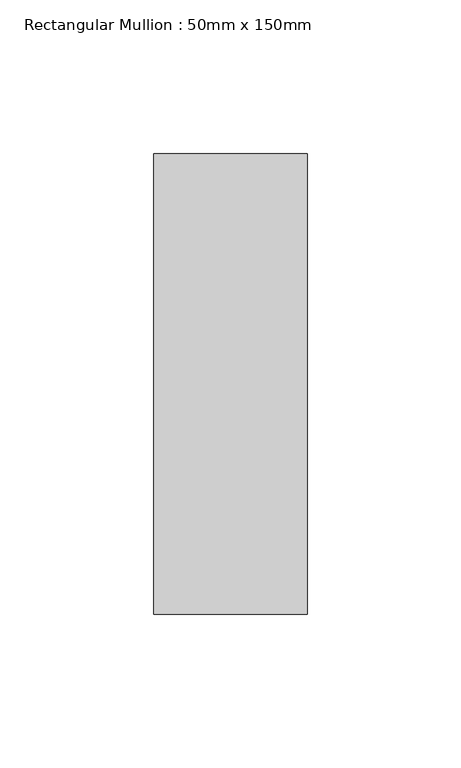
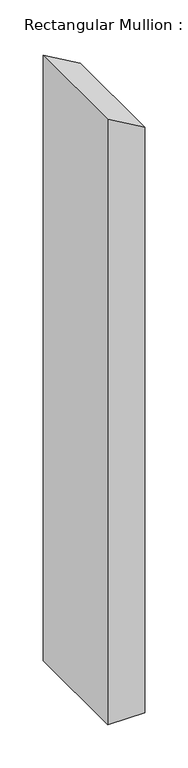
"""IFC4 building model written with IfcOpenShell, lengths in millimetres: member geometry, Rectangular Mullion : 50mm x 150mm."""

from ifc_helpers import new_model, si_unit, frame, origin, place, context, project, spatial, polyline, outline, extrude, source, transform, mapped, element, save


def rectangular_mullion_50mm_x_150mm_042a0947(model_context):
    return source(origin(), model_context, "Body", "SweptSolid", [
        extrude(outline(polyline([(0.0, 0.0), (28.8675135, -50.0), (-830.7378, -50.0), (-830.7378, 0.0), (0.0, 0.0)])), frame((0.0, -75.0, 0.0), z_axis=(0.0, 1.0, 0.0), x_axis=(0.0, 0.0, 1.0)), (0.0, 0.0, 1.0), 150.0),
    ])


if __name__ == "__main__":
    model = new_model("IFC4")
    model_context = context("Model", 3, world=origin())
    ifc_project = project(units=[si_unit("LENGTHUNIT", "METRE", prefix="MILLI")], contexts=[model_context])
    site = spatial("IfcSite", under=ifc_project)
    building = spatial("IfcBuilding", under=site)
    placement = place(None, origin())
    rectangular_mullion_50mm_x_150mm_shape = rectangular_mullion_50mm_x_150mm_042a0947(model_context)
    element("IfcMember", 1, ObjectType="Rectangular Mullion : 50mm x 150mm", at=placement, inside=building, context=model_context, shape_type="MappedRepresentation", body=[
        mapped(rectangular_mullion_50mm_x_150mm_shape, transform((0.0, 0.0, 0.0), x_axis=(1.0, 0.0, 0.0), y_axis=(0.0, 1.0, 0.0), z_axis=(0.0, 0.0, 1.0))),
    ])
    save(model, "model.ifc")
